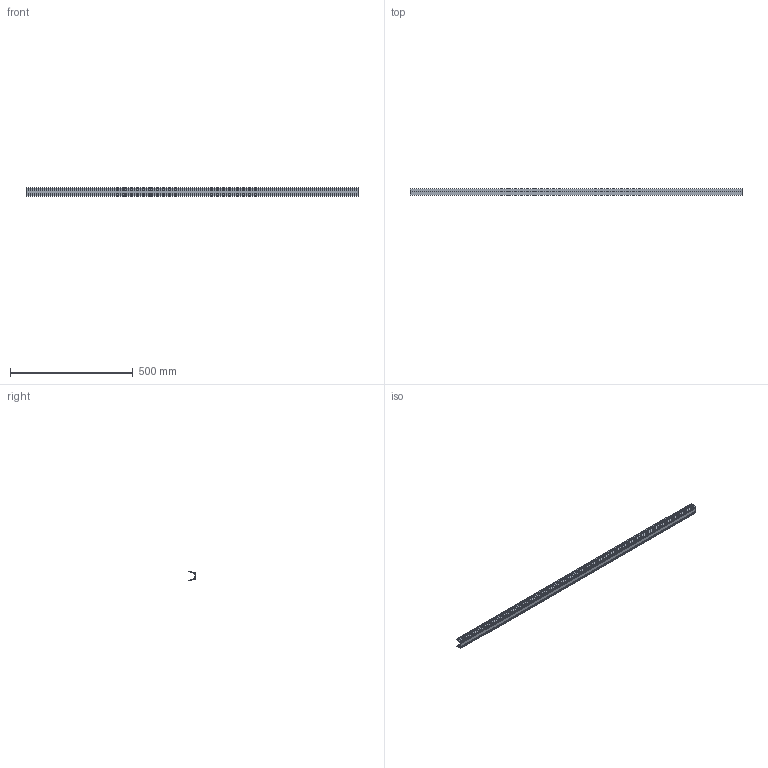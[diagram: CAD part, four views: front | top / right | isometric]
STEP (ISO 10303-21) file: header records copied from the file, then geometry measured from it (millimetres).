
FILE_DESCRIPTION( ( 'STEP AP203' ), '1' );
FILE_NAME( 'C:/Temp/Ganter_Step_05_03_2020/data/3_8/gn_646_3/Carrier profile GN 646.3-1350-A (15).stp', '2020-03-12T15:24:22', ( 'License CC BY-ND 4.0' ), ( 'CADENAS' ), ' ', 'PARTsolutions', ' ' );
FILE_SCHEMA( ( 'CONFIG_CONTROL_DESIGN' ) );
Length unit declared in the file: millimetre
Products named in the file (1): _Carrier profile GN 646.3-1350-A (15)
Bounding box: 1350 x 26.5 x 36 mm (x, y, z)
Volume: 226716.1 mm3; surface area: 283698 mm2
Topology: 1 solids, 1 shells, 112 faces, 330 edges, 220 vertices
Faces by surface type: plane 70, cylinder 42
Entity records: 3782 total; most frequent: CARTESIAN_POINT 663, ORIENTED_EDGE 660, DIRECTION 640, EDGE_CURVE 330, LINE 246, VECTOR 246, VERTEX_POINT 220, AXIS2_PLACEMENT_3D 197
